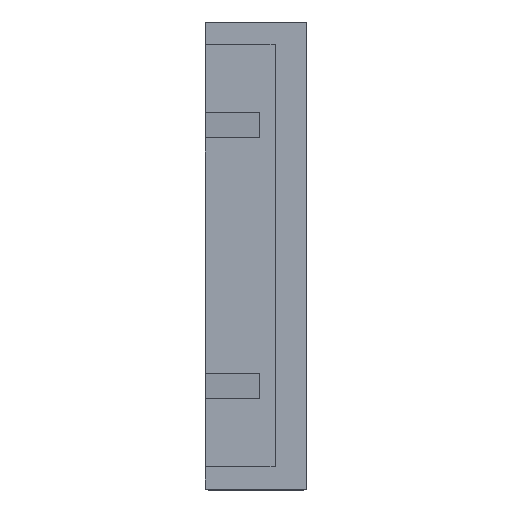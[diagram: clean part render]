
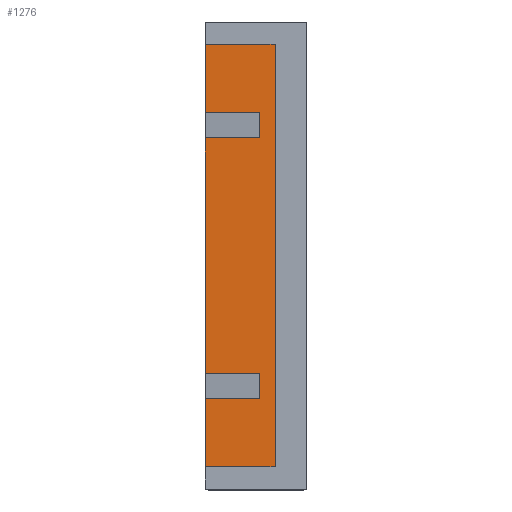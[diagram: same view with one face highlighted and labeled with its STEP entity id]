
A CAD part, top view. The second image highlights one B-rep face of the part: STEP entity #1276.
In plain terms, the highlighted planar face has unit normal (0, 0, 1).
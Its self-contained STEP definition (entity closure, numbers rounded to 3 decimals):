
#1276 = ADVANCED_FACE('',(#1277),#1291,.T.);
#1277 = FACE_BOUND('',#1278,.T.);
#1278 = EDGE_LOOP('',(#1279,#1302,#1318,#1334,#1350,#1366,#1382,#1398,
    #1414,#1430,#1446,#1462));
#1279 = ORIENTED_EDGE('',*,*,#1280,.T.);
#1280 = EDGE_CURVE('',#1281,#1283,#1285,.T.);
#1281 = VERTEX_POINT('',#1282);
#1282 = CARTESIAN_POINT('',(1.,-43.347,14.202));
#1283 = VERTEX_POINT('',#1284);
#1284 = CARTESIAN_POINT('',(1.,-30.047,14.202));
#1285 = SURFACE_CURVE('',#1286,(#1290),.PCURVE_S1.);
#1286 = LINE('',#1287,#1288);
#1287 = CARTESIAN_POINT('',(1.,36.253,14.202));
#1288 = VECTOR('',#1289,1.);
#1289 = DIRECTION('',(0.,1.,0.));
#1290 = PCURVE('',#1291,#1296);
#1291 = PLANE('',#1292);
#1292 = AXIS2_PLACEMENT_3D('',#1293,#1294,#1295);
#1293 = CARTESIAN_POINT('',(-1.2,36.253,14.202));
#1294 = DIRECTION('',(0.,0.,1.));
#1295 = DIRECTION('',(1.,0.,0.));
#1296 = DEFINITIONAL_REPRESENTATION('',(#1297),#1301);
#1297 = LINE('',#1298,#1299);
#1298 = CARTESIAN_POINT('',(2.2,0.));
#1299 = VECTOR('',#1300,1.);
#1300 = DIRECTION('',(0.,1.));
#1301 = ( GEOMETRIC_REPRESENTATION_CONTEXT(2) 
PARAMETRIC_REPRESENTATION_CONTEXT() REPRESENTATION_CONTEXT('2D SPACE',''
  ) );
#1302 = ORIENTED_EDGE('',*,*,#1303,.T.);
#1303 = EDGE_CURVE('',#1283,#1304,#1306,.T.);
#1304 = VERTEX_POINT('',#1305);
#1305 = CARTESIAN_POINT('',(-1.2,-30.047,14.202));
#1306 = SURFACE_CURVE('',#1307,(#1311),.PCURVE_S1.);
#1307 = LINE('',#1308,#1309);
#1308 = CARTESIAN_POINT('',(-1.2,-30.047,14.202));
#1309 = VECTOR('',#1310,1.);
#1310 = DIRECTION('',(-1.,0.,0.));
#1311 = PCURVE('',#1291,#1312);
#1312 = DEFINITIONAL_REPRESENTATION('',(#1313),#1317);
#1313 = LINE('',#1314,#1315);
#1314 = CARTESIAN_POINT('',(0.,-66.3));
#1315 = VECTOR('',#1316,1.);
#1316 = DIRECTION('',(-1.,0.));
#1317 = ( GEOMETRIC_REPRESENTATION_CONTEXT(2) 
PARAMETRIC_REPRESENTATION_CONTEXT() REPRESENTATION_CONTEXT('2D SPACE',''
  ) );
#1318 = ORIENTED_EDGE('',*,*,#1319,.T.);
#1319 = EDGE_CURVE('',#1304,#1320,#1322,.T.);
#1320 = VERTEX_POINT('',#1321);
#1321 = CARTESIAN_POINT('',(-1.2,-32.197,14.202));
#1322 = SURFACE_CURVE('',#1323,(#1327),.PCURVE_S1.);
#1323 = LINE('',#1324,#1325);
#1324 = CARTESIAN_POINT('',(-1.2,36.253,14.202));
#1325 = VECTOR('',#1326,1.);
#1326 = DIRECTION('',(0.,-1.,0.));
#1327 = PCURVE('',#1291,#1328);
#1328 = DEFINITIONAL_REPRESENTATION('',(#1329),#1333);
#1329 = LINE('',#1330,#1331);
#1330 = CARTESIAN_POINT('',(0.,0.));
#1331 = VECTOR('',#1332,1.);
#1332 = DIRECTION('',(0.,-1.));
#1333 = ( GEOMETRIC_REPRESENTATION_CONTEXT(2) 
PARAMETRIC_REPRESENTATION_CONTEXT() REPRESENTATION_CONTEXT('2D SPACE',''
  ) );
#1334 = ORIENTED_EDGE('',*,*,#1335,.T.);
#1335 = EDGE_CURVE('',#1320,#1336,#1338,.T.);
#1336 = VERTEX_POINT('',#1337);
#1337 = CARTESIAN_POINT('',(0.5,-32.197,14.202));
#1338 = SURFACE_CURVE('',#1339,(#1343),.PCURVE_S1.);
#1339 = LINE('',#1340,#1341);
#1340 = CARTESIAN_POINT('',(-1.2,-32.197,14.202));
#1341 = VECTOR('',#1342,1.);
#1342 = DIRECTION('',(1.,0.,0.));
#1343 = PCURVE('',#1291,#1344);
#1344 = DEFINITIONAL_REPRESENTATION('',(#1345),#1349);
#1345 = LINE('',#1346,#1347);
#1346 = CARTESIAN_POINT('',(0.,-68.45));
#1347 = VECTOR('',#1348,1.);
#1348 = DIRECTION('',(1.,0.));
#1349 = ( GEOMETRIC_REPRESENTATION_CONTEXT(2) 
PARAMETRIC_REPRESENTATION_CONTEXT() REPRESENTATION_CONTEXT('2D SPACE',''
  ) );
#1350 = ORIENTED_EDGE('',*,*,#1351,.T.);
#1351 = EDGE_CURVE('',#1336,#1352,#1354,.T.);
#1352 = VERTEX_POINT('',#1353);
#1353 = CARTESIAN_POINT('',(0.5,-32.997,14.202));
#1354 = SURFACE_CURVE('',#1355,(#1359),.PCURVE_S1.);
#1355 = LINE('',#1356,#1357);
#1356 = CARTESIAN_POINT('',(0.5,-32.997,14.202));
#1357 = VECTOR('',#1358,1.);
#1358 = DIRECTION('',(0.,-1.,0.));
#1359 = PCURVE('',#1291,#1360);
#1360 = DEFINITIONAL_REPRESENTATION('',(#1361),#1365);
#1361 = LINE('',#1362,#1363);
#1362 = CARTESIAN_POINT('',(1.7,-69.25));
#1363 = VECTOR('',#1364,1.);
#1364 = DIRECTION('',(0.,-1.));
#1365 = ( GEOMETRIC_REPRESENTATION_CONTEXT(2) 
PARAMETRIC_REPRESENTATION_CONTEXT() REPRESENTATION_CONTEXT('2D SPACE',''
  ) );
#1366 = ORIENTED_EDGE('',*,*,#1367,.F.);
#1367 = EDGE_CURVE('',#1368,#1352,#1370,.T.);
#1368 = VERTEX_POINT('',#1369);
#1369 = CARTESIAN_POINT('',(-1.2,-32.997,14.202));
#1370 = SURFACE_CURVE('',#1371,(#1375),.PCURVE_S1.);
#1371 = LINE('',#1372,#1373);
#1372 = CARTESIAN_POINT('',(-1.2,-32.997,14.202));
#1373 = VECTOR('',#1374,1.);
#1374 = DIRECTION('',(1.,0.,0.));
#1375 = PCURVE('',#1291,#1376);
#1376 = DEFINITIONAL_REPRESENTATION('',(#1377),#1381);
#1377 = LINE('',#1378,#1379);
#1378 = CARTESIAN_POINT('',(0.,-69.25));
#1379 = VECTOR('',#1380,1.);
#1380 = DIRECTION('',(1.,0.));
#1381 = ( GEOMETRIC_REPRESENTATION_CONTEXT(2) 
PARAMETRIC_REPRESENTATION_CONTEXT() REPRESENTATION_CONTEXT('2D SPACE',''
  ) );
#1382 = ORIENTED_EDGE('',*,*,#1383,.T.);
#1383 = EDGE_CURVE('',#1368,#1384,#1386,.T.);
#1384 = VERTEX_POINT('',#1385);
#1385 = CARTESIAN_POINT('',(-1.2,-40.397,14.202));
#1386 = SURFACE_CURVE('',#1387,(#1391),.PCURVE_S1.);
#1387 = LINE('',#1388,#1389);
#1388 = CARTESIAN_POINT('',(-1.2,36.253,14.202));
#1389 = VECTOR('',#1390,1.);
#1390 = DIRECTION('',(0.,-1.,0.));
#1391 = PCURVE('',#1291,#1392);
#1392 = DEFINITIONAL_REPRESENTATION('',(#1393),#1397);
#1393 = LINE('',#1394,#1395);
#1394 = CARTESIAN_POINT('',(0.,0.));
#1395 = VECTOR('',#1396,1.);
#1396 = DIRECTION('',(0.,-1.));
#1397 = ( GEOMETRIC_REPRESENTATION_CONTEXT(2) 
PARAMETRIC_REPRESENTATION_CONTEXT() REPRESENTATION_CONTEXT('2D SPACE',''
  ) );
#1398 = ORIENTED_EDGE('',*,*,#1399,.T.);
#1399 = EDGE_CURVE('',#1384,#1400,#1402,.T.);
#1400 = VERTEX_POINT('',#1401);
#1401 = CARTESIAN_POINT('',(0.5,-40.397,14.202));
#1402 = SURFACE_CURVE('',#1403,(#1407),.PCURVE_S1.);
#1403 = LINE('',#1404,#1405);
#1404 = CARTESIAN_POINT('',(-1.2,-40.397,14.202));
#1405 = VECTOR('',#1406,1.);
#1406 = DIRECTION('',(1.,0.,0.));
#1407 = PCURVE('',#1291,#1408);
#1408 = DEFINITIONAL_REPRESENTATION('',(#1409),#1413);
#1409 = LINE('',#1410,#1411);
#1410 = CARTESIAN_POINT('',(0.,-76.65));
#1411 = VECTOR('',#1412,1.);
#1412 = DIRECTION('',(1.,0.));
#1413 = ( GEOMETRIC_REPRESENTATION_CONTEXT(2) 
PARAMETRIC_REPRESENTATION_CONTEXT() REPRESENTATION_CONTEXT('2D SPACE',''
  ) );
#1414 = ORIENTED_EDGE('',*,*,#1415,.T.);
#1415 = EDGE_CURVE('',#1400,#1416,#1418,.T.);
#1416 = VERTEX_POINT('',#1417);
#1417 = CARTESIAN_POINT('',(0.5,-41.197,14.202));
#1418 = SURFACE_CURVE('',#1419,(#1423),.PCURVE_S1.);
#1419 = LINE('',#1420,#1421);
#1420 = CARTESIAN_POINT('',(0.5,-41.197,14.202));
#1421 = VECTOR('',#1422,1.);
#1422 = DIRECTION('',(0.,-1.,0.));
#1423 = PCURVE('',#1291,#1424);
#1424 = DEFINITIONAL_REPRESENTATION('',(#1425),#1429);
#1425 = LINE('',#1426,#1427);
#1426 = CARTESIAN_POINT('',(1.7,-77.45));
#1427 = VECTOR('',#1428,1.);
#1428 = DIRECTION('',(0.,-1.));
#1429 = ( GEOMETRIC_REPRESENTATION_CONTEXT(2) 
PARAMETRIC_REPRESENTATION_CONTEXT() REPRESENTATION_CONTEXT('2D SPACE',''
  ) );
#1430 = ORIENTED_EDGE('',*,*,#1431,.F.);
#1431 = EDGE_CURVE('',#1432,#1416,#1434,.T.);
#1432 = VERTEX_POINT('',#1433);
#1433 = CARTESIAN_POINT('',(-1.2,-41.197,14.202));
#1434 = SURFACE_CURVE('',#1435,(#1439),.PCURVE_S1.);
#1435 = LINE('',#1436,#1437);
#1436 = CARTESIAN_POINT('',(-1.2,-41.197,14.202));
#1437 = VECTOR('',#1438,1.);
#1438 = DIRECTION('',(1.,0.,0.));
#1439 = PCURVE('',#1291,#1440);
#1440 = DEFINITIONAL_REPRESENTATION('',(#1441),#1445);
#1441 = LINE('',#1442,#1443);
#1442 = CARTESIAN_POINT('',(0.,-77.45));
#1443 = VECTOR('',#1444,1.);
#1444 = DIRECTION('',(1.,0.));
#1445 = ( GEOMETRIC_REPRESENTATION_CONTEXT(2) 
PARAMETRIC_REPRESENTATION_CONTEXT() REPRESENTATION_CONTEXT('2D SPACE',''
  ) );
#1446 = ORIENTED_EDGE('',*,*,#1447,.T.);
#1447 = EDGE_CURVE('',#1432,#1448,#1450,.T.);
#1448 = VERTEX_POINT('',#1449);
#1449 = CARTESIAN_POINT('',(-1.2,-43.347,14.202));
#1450 = SURFACE_CURVE('',#1451,(#1455),.PCURVE_S1.);
#1451 = LINE('',#1452,#1453);
#1452 = CARTESIAN_POINT('',(-1.2,36.253,14.202));
#1453 = VECTOR('',#1454,1.);
#1454 = DIRECTION('',(0.,-1.,0.));
#1455 = PCURVE('',#1291,#1456);
#1456 = DEFINITIONAL_REPRESENTATION('',(#1457),#1461);
#1457 = LINE('',#1458,#1459);
#1458 = CARTESIAN_POINT('',(0.,0.));
#1459 = VECTOR('',#1460,1.);
#1460 = DIRECTION('',(0.,-1.));
#1461 = ( GEOMETRIC_REPRESENTATION_CONTEXT(2) 
PARAMETRIC_REPRESENTATION_CONTEXT() REPRESENTATION_CONTEXT('2D SPACE',''
  ) );
#1462 = ORIENTED_EDGE('',*,*,#1463,.F.);
#1463 = EDGE_CURVE('',#1281,#1448,#1464,.T.);
#1464 = SURFACE_CURVE('',#1465,(#1469),.PCURVE_S1.);
#1465 = LINE('',#1466,#1467);
#1466 = CARTESIAN_POINT('',(-1.2,-43.347,14.202));
#1467 = VECTOR('',#1468,1.);
#1468 = DIRECTION('',(-1.,0.,0.));
#1469 = PCURVE('',#1291,#1470);
#1470 = DEFINITIONAL_REPRESENTATION('',(#1471),#1475);
#1471 = LINE('',#1472,#1473);
#1472 = CARTESIAN_POINT('',(0.,-79.6));
#1473 = VECTOR('',#1474,1.);
#1474 = DIRECTION('',(-1.,0.));
#1475 = ( GEOMETRIC_REPRESENTATION_CONTEXT(2) 
PARAMETRIC_REPRESENTATION_CONTEXT() REPRESENTATION_CONTEXT('2D SPACE',''
  ) );
